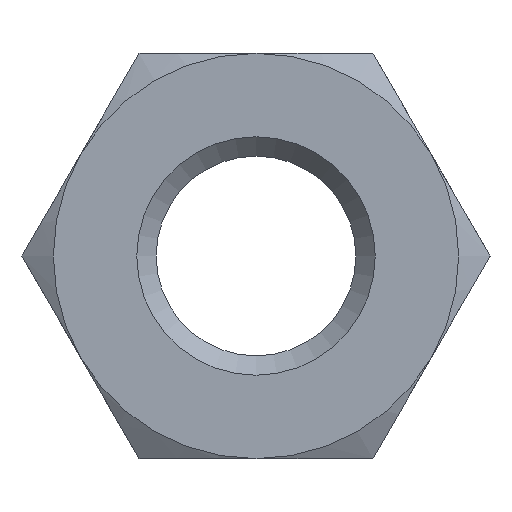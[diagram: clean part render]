
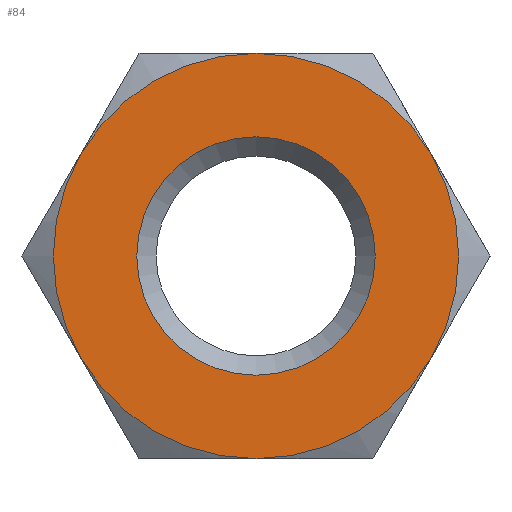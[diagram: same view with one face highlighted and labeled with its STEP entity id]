
A CAD part, left-side view. The second image highlights one B-rep face of the part: STEP entity #84.
In plain terms, the highlighted planar face has unit normal (-1, 0, 0).
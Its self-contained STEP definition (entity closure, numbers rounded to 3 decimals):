
#84 = ADVANCED_FACE( '', ( #118, #119 ), #120, .F. );
#118 = FACE_OUTER_BOUND( '', #169, .T. );
#119 = FACE_BOUND( '', #170, .T. );
#120 = PLANE( '', #171 );
#169 = EDGE_LOOP( '', ( #268, #269, #270, #271, #272, #273 ) );
#170 = EDGE_LOOP( '', ( #274 ) );
#171 = AXIS2_PLACEMENT_3D( '', #275, #276, #277 );
#268 = ORIENTED_EDGE( '', *, *, #391, .F. );
#269 = ORIENTED_EDGE( '', *, *, #392, .F. );
#270 = ORIENTED_EDGE( '', *, *, #393, .F. );
#271 = ORIENTED_EDGE( '', *, *, #389, .F. );
#272 = ORIENTED_EDGE( '', *, *, #387, .F. );
#273 = ORIENTED_EDGE( '', *, *, #388, .F. );
#274 = ORIENTED_EDGE( '', *, *, #394, .T. );
#275 = CARTESIAN_POINT( '', ( 0., 0., 0. ) );
#276 = DIRECTION( '', ( 1., 0., 0. ) );
#277 = DIRECTION( '', ( 0., 0., -1. ) );
#387 = EDGE_CURVE( '', #417, #435, #451, .T. );
#388 = EDGE_CURVE( '', #426, #417, #452, .T. );
#389 = EDGE_CURVE( '', #435, #453, #454, .T. );
#391 = EDGE_CURVE( '', #456, #426, #457, .T. );
#392 = EDGE_CURVE( '', #458, #456, #459, .T. );
#393 = EDGE_CURVE( '', #453, #458, #460, .T. );
#394 = EDGE_CURVE( '', #461, #461, #462, .T. );
#417 = VERTEX_POINT( '', #503 );
#426 = VERTEX_POINT( '', #535 );
#435 = VERTEX_POINT( '', #569 );
#451 = CIRCLE( '', #609, 8.5 );
#452 = CIRCLE( '', #610, 8.5 );
#453 = VERTEX_POINT( '', #611 );
#454 = CIRCLE( '', #612, 8.5 );
#456 = VERTEX_POINT( '', #621 );
#457 = CIRCLE( '', #622, 8.5 );
#458 = VERTEX_POINT( '', #623 );
#459 = CIRCLE( '', #624, 8.5 );
#460 = CIRCLE( '', #625, 8.5 );
#461 = VERTEX_POINT( '', #626 );
#462 = CIRCLE( '', #627, 5. );
#503 = CARTESIAN_POINT( '', ( 0., 0., 8.5 ) );
#535 = CARTESIAN_POINT( '', ( 0., 7.361, 4.25 ) );
#569 = CARTESIAN_POINT( '', ( 0., -7.361, 4.25 ) );
#609 = AXIS2_PLACEMENT_3D( '', #723, #724, #725 );
#610 = AXIS2_PLACEMENT_3D( '', #726, #727, #728 );
#611 = CARTESIAN_POINT( '', ( 0., -7.361, -4.25 ) );
#612 = AXIS2_PLACEMENT_3D( '', #729, #730, #731 );
#621 = CARTESIAN_POINT( '', ( 0., 7.361, -4.25 ) );
#622 = AXIS2_PLACEMENT_3D( '', #732, #733, #734 );
#623 = CARTESIAN_POINT( '', ( 0., 0., -8.5 ) );
#624 = AXIS2_PLACEMENT_3D( '', #735, #736, #737 );
#625 = AXIS2_PLACEMENT_3D( '', #738, #739, #740 );
#626 = CARTESIAN_POINT( '', ( 0., 0., -5. ) );
#627 = AXIS2_PLACEMENT_3D( '', #741, #742, #743 );
#723 = CARTESIAN_POINT( '', ( 0., 0., 0. ) );
#724 = DIRECTION( '', ( 1., 0., 0. ) );
#725 = DIRECTION( '', ( 0., 0., -1. ) );
#726 = CARTESIAN_POINT( '', ( 0., 0., 0. ) );
#727 = DIRECTION( '', ( 1., 0., 0. ) );
#728 = DIRECTION( '', ( 0., 0., -1. ) );
#729 = CARTESIAN_POINT( '', ( 0., 0., 0. ) );
#730 = DIRECTION( '', ( 1., 0., 0. ) );
#731 = DIRECTION( '', ( 0., 0., -1. ) );
#732 = CARTESIAN_POINT( '', ( 0., 0., 0. ) );
#733 = DIRECTION( '', ( 1., 0., 0. ) );
#734 = DIRECTION( '', ( 0., 0., -1. ) );
#735 = CARTESIAN_POINT( '', ( 0., 0., 0. ) );
#736 = DIRECTION( '', ( 1., 0., 0. ) );
#737 = DIRECTION( '', ( 0., 0., -1. ) );
#738 = CARTESIAN_POINT( '', ( 0., 0., 0. ) );
#739 = DIRECTION( '', ( 1., 0., 0. ) );
#740 = DIRECTION( '', ( 0., 0., -1. ) );
#741 = CARTESIAN_POINT( '', ( 0., 0., 0. ) );
#742 = DIRECTION( '', ( 1., 0., 0. ) );
#743 = DIRECTION( '', ( 0., 0., -1. ) );
